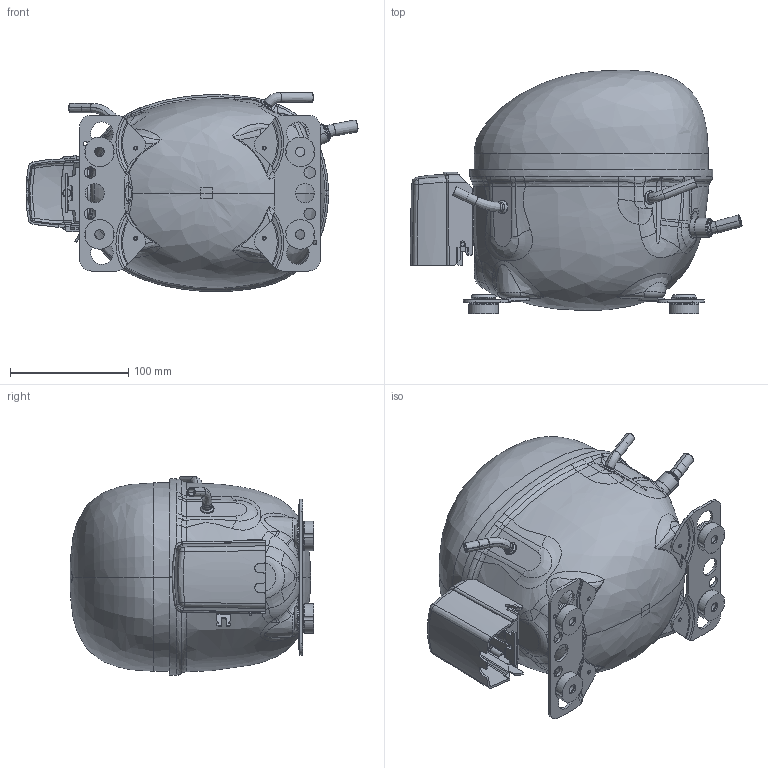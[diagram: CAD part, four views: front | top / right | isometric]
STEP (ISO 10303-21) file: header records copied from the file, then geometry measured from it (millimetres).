
FILE_DESCRIPTION((''),'2;1');
FILE_NAME('103F4196_103F4311_103F4372_ASM','2018-12-03T',('U244840'),(''),'CREO PARAMETRIC BY PTC INC, 2015380','CREO PARAMETRIC BY PTC INC, 2015380','');
FILE_SCHEMA(('CONFIG_CONTROL_DESIGN'));
Products named in the file (21): 103F4425; 103F4573; 60-35175_1; 12-60705_GLASS_1; 12-60705_GLASS-OA0_1; 12-60705_GLASS-OA1_1; 50-41378_1; 60-41459_1; ASSEM1_1_ASM; 117-3629_ASM; 102B1830_BENT_PS_AF5; 103F4618_BENT_PS_AF5; 103F4621; 102B1980_PS_BENT_AF1; 103F4644_BENT_PS_AF1_ASM; 103N0480; 103F4405_PS_BENT_103F4372_AF0_ASM; 103F4311; 118-3661; 103N2011; 103F4196_103F4311_103F4372_ASM
Assembly tree (26 placements, depth 5):
  103F4196_103F4311_103F4372_ASM
    103F4405_PS_BENT_103F4372_AF0_ASM
      103F4425
      103F4573  x2
      117-3629_ASM
        ASSEM1_1_ASM
          60-35175_1  x3
          12-60705_GLASS_1
          12-60705_GLASS-OA0_1
          12-60705_GLASS-OA1_1
          50-41378_1
          60-41459_1
      102B1830_BENT_PS_AF5
      103F4618_BENT_PS_AF5
      103F4644_BENT_PS_AF1_ASM
        103F4621
        102B1980_PS_BENT_AF1
      103N0480
    103F4311
    118-3661  x4
    103N2011
Bounding box: 281.21 x 206.3 x 168.48 mm (x, y, z)
Volume: 523472.7 mm3; surface area: 357019.2 mm2
Topology: 23 solids, 25 shells, 1631 faces, 4168 edges, 2585 vertices
Faces by surface type: plane 455, bspline 389, cylinder 357, torus 197, cone 168, sphere 39, revolution 16, extrusion 10
Entity records: 74835 total; most frequent: CARTESIAN_POINT 41765, ORIENTED_EDGE 7436, DIRECTION 5953, EDGE_CURVE 3720, VERTEX_POINT 2329, AXIS2_PLACEMENT_3D 2258, EDGE_LOOP 1546, FACE_OUTER_BOUND 1457
